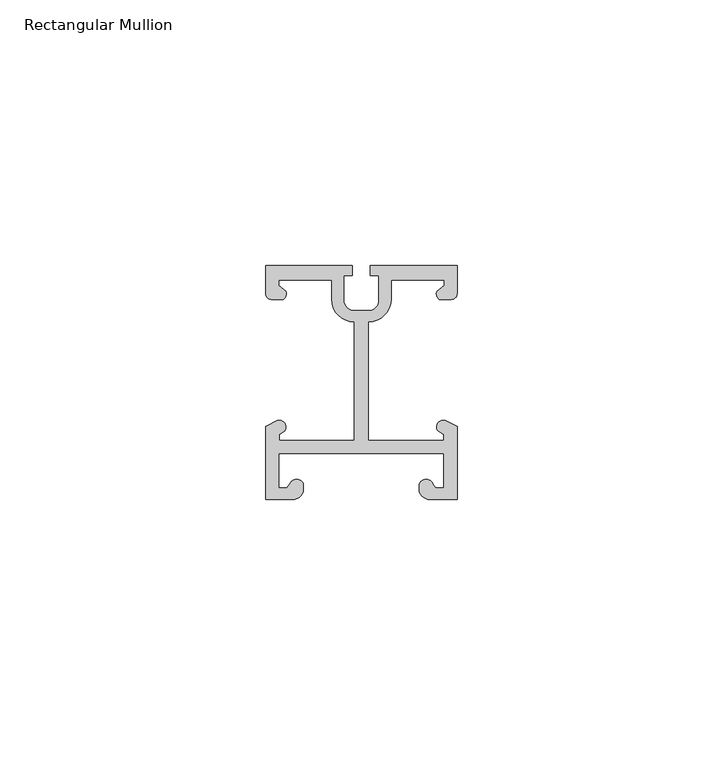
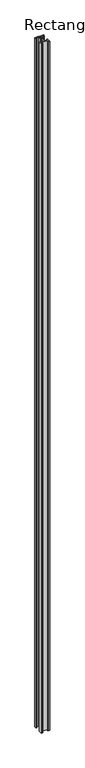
"""IFC4 building model written with IfcOpenShell, lengths in millimetres: member geometry, Rectangular Mullion : NLRS_21_CWM_drager LD.0440 - links_Storax."""

from ifc_helpers import new_model, si_unit, point, frame, frame_2d, origin, place, context, project, spatial, polyline, circle_curve, trimmed, segment, composite_curve, outline, extrude, source, transform, mapped, element, save


def rectangular_mullion_5b30f3fd(model_context):
    return source(origin(), model_context, "Body", "SweptSolid", [
        extrude(outline(composite_curve([segment(trimmed(circle_curve(frame_2d((-51.0607188, -6.3052023)), 1.0607188), [point((-50.0, -6.3052023))], [point((-51.0607188, -7.3659211))], False, "CARTESIAN"), True, "CONTINUOUS"), segment(polyline([(-51.0607188, -7.3659211), (-53.3289168, -7.3659211)]), True, "CONTINUOUS"), segment(trimmed(circle_curve(frame_2d((-52.5236107, -6.2941519)), 1.3405996), [point((-53.3289168, -7.3659211))], [point((-53.7569109, -5.7686256))], False, "CARTESIAN"), True, "CONTINUOUS"), segment(polyline([(-53.7569109, -5.7686256), (-52.4146446, -4.7934121), (-52.4146446, -3.7019722), (-62.4146446, -3.7019722), (-62.4146446, -7.3659211)]), True, "CONTINUOUS"), segment(trimmed(circle_curve(frame_2d((-66.6570939, -7.3659211)), 4.2424493), [point((-62.4146446, -7.3659211))], [point((-66.6570939, -11.6083704))], False, "CARTESIAN"), True, "CONTINUOUS"), segment(polyline([(-66.6570939, -11.6083704), (-66.6570939, -33.9484561), (-52.5213309, -33.9484561), (-52.5213309, -32.7842379), (-53.5626009, -32.1830604)]), True, "CONTINUOUS"), segment(trimmed(circle_curve(frame_2d((-52.54141, -31.4212831)), 1.2740234), [point((-53.5626009, -32.1830604))], [point((-52.1793417, -30.1997913))], False, "CARTESIAN"), True, "CONTINUOUS"), segment(polyline([(-52.1793417, -30.1997913), (-50.0, -31.2742706), (-50.0, -45.0), (-55.5130836, -45.0)]), True, "CONTINUOUS"), segment(trimmed(circle_curve(frame_2d((-55.0734746, -42.8995012)), 2.1460082), [point((-55.5130836, -45.0))], [point((-57.0805242, -43.6591742))], False, "CARTESIAN"), True, "CONTINUOUS"), segment(polyline([(-57.0805242, -43.6591742), (-57.0805242, -42.1270559)]), True, "CONTINUOUS"), segment(trimmed(circle_curve(frame_2d((-55.8139657, -42.6211046)), 1.3595053), [point((-57.0805242, -42.1270559))], [point((-54.5474071, -42.1270559))], False, "CARTESIAN"), True, "CONTINUOUS"), segment(polyline([(-54.5474071, -42.1270559), (-53.9602598, -42.8785701), (-52.4671909, -42.8785701), (-52.4671909, -36.3732865), (-83.5328091, -36.3732865), (-83.5328091, -42.8785701), (-82.0397402, -42.8785701), (-81.4525929, -42.1270559)]), True, "CONTINUOUS"), segment(trimmed(circle_curve(frame_2d((-80.1860343, -42.6211046)), 1.3595053), [point((-81.4525929, -42.1270559))], [point((-78.9194758, -42.1270559))], False, "CARTESIAN"), True, "CONTINUOUS"), segment(polyline([(-78.9194758, -42.1270559), (-78.9194758, -43.6591742)]), True, "CONTINUOUS"), segment(trimmed(circle_curve(frame_2d((-80.9265254, -42.8995012)), 2.1460082), [point((-78.9194758, -43.6591742))], [point((-80.4869164, -45.0))], False, "CARTESIAN"), True, "CONTINUOUS"), segment(polyline([(-80.4869164, -45.0), (-86.0, -45.0), (-86.0, -31.2742706), (-83.8206583, -30.1997913)]), True, "CONTINUOUS"), segment(trimmed(circle_curve(frame_2d((-83.45859, -31.4212831)), 1.2740234), [point((-83.8206583, -30.1997913))], [point((-82.4373991, -32.1830604))], False, "CARTESIAN"), True, "CONTINUOUS"), segment(polyline([(-82.4373991, -32.1830604), (-83.4786691, -32.7842379), (-83.4786691, -33.9484561), (-69.3429061, -33.9484561), (-69.3429061, -11.6083704)]), True, "CONTINUOUS"), segment(trimmed(circle_curve(frame_2d((-69.3429061, -7.3659211)), 4.2424493), [point((-69.3429061, -11.6083704))], [point((-73.5853554, -7.3659211))], False, "CARTESIAN"), True, "CONTINUOUS"), segment(polyline([(-73.5853554, -7.3659211), (-73.5853554, -3.7019722), (-83.5853554, -3.7019722), (-83.5853554, -4.7934121), (-82.2430891, -5.7686256)]), True, "CONTINUOUS"), segment(trimmed(circle_curve(frame_2d((-83.4763893, -6.2941519)), 1.3405996), [point((-82.2430891, -5.7686256))], [point((-82.6710832, -7.3659211))], False, "CARTESIAN"), True, "CONTINUOUS"), segment(polyline([(-82.6710832, -7.3659211), (-84.9392812, -7.3659211)]), True, "CONTINUOUS"), segment(trimmed(circle_curve(frame_2d((-84.9392812, -6.3052023)), 1.0607188), [point((-84.9392812, -7.3659211))], [point((-86.0, -6.3052023))], False, "CARTESIAN"), True, "CONTINUOUS"), segment(polyline([(-86.0, -6.3052023), (-86.0, -1.0), (-69.7007911, -1.0), (-69.7007911, -2.8614608), (-71.3098873, -2.8614608), (-71.3098873, -7.4387929)]), True, "CONTINUOUS"), segment(trimmed(circle_curve(frame_2d((-69.2477445, -7.4387929)), 2.0621428), [point((-71.3098873, -7.4387929))], [point((-69.2477445, -9.5009356))], True, "CARTESIAN"), True, "CONTINUOUS"), segment(polyline([(-69.2477445, -9.5009356), (-66.7522555, -9.5009356)]), True, "CONTINUOUS"), segment(trimmed(circle_curve(frame_2d((-66.7522555, -7.4387929)), 2.0621428), [point((-66.7522555, -9.5009356))], [point((-64.6901127, -7.4387929))], True, "CARTESIAN"), True, "CONTINUOUS"), segment(polyline([(-64.6901127, -7.4387929), (-64.6901127, -2.8614608), (-66.2992089, -2.8614608), (-66.2992089, -1.0), (-50.0, -1.0), (-50.0, -6.3052023)]), True, "CONTINUOUS")], self_intersect=False)), frame((0.0, 0.0, -3000.0), z_axis=(0.0, 0.0, 1.0), x_axis=(1.0, 0.0, 0.0)), (0.0, 0.0, 1.0), 3000.0),
    ])


if __name__ == "__main__":
    model = new_model("IFC4")
    model_context = context("Model", 3, world=origin())
    ifc_project = project(units=[si_unit("LENGTHUNIT", "METRE", prefix="MILLI")], contexts=[model_context])
    site = spatial("IfcSite", under=ifc_project)
    building = spatial("IfcBuilding", under=site)
    placement = place(None, origin())
    rectangular_mullion_shape = rectangular_mullion_5b30f3fd(model_context)
    element("IfcMember", 1, ObjectType="Rectangular Mullion : NLRS_21_CWM_drager LD.0440 - links_Storax", at=placement, inside=building, context=model_context, shape_type="MappedRepresentation", body=[
        mapped(rectangular_mullion_shape, transform((0.0, 0.0, 0.0), x_axis=(1.0, 0.0, 0.0), y_axis=(0.0, 1.0, 0.0), z_axis=(0.0, 0.0, 1.0))),
    ])
    save(model, "model.ifc")
